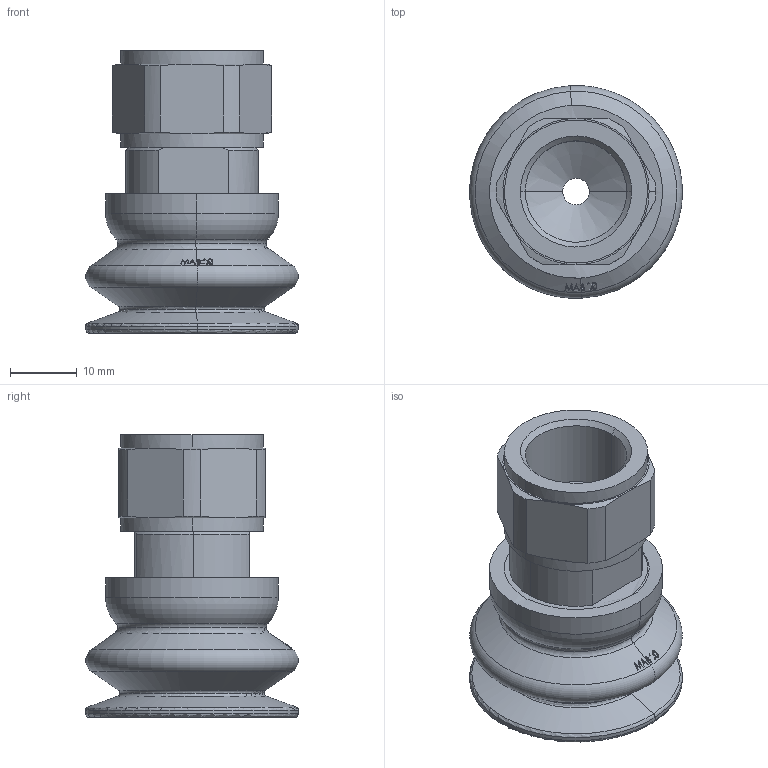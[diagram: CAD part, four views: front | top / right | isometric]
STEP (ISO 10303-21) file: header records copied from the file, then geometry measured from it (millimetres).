
FILE_DESCRIPTION (( 'STEP AP203' ), '1' );
FILE_NAME ('ZSAB30N-F03.STEP', '2022-03-31T14:24:23', ( '' ), ( '' ), 'SwSTEP 2.0', 'SolidWorks 2019', '' );
FILE_SCHEMA (( 'CONFIG_CONTROL_DESIGN' ));
Length unit declared in the file: millimetre
Products named in the file (1): ZSAB30N-F03
Bounding box: 32 x 31.98 x 42.5 mm (x, y, z)
Surface area: 6540.5 mm2 (no closed solid volume)
Topology: 0 solids, 3 shells, 126 faces, 281 edges, 172 vertices
Faces by surface type: bspline 32, torus 30, cone 25, cylinder 22, plane 17
Entity records: 6619 total; most frequent: CARTESIAN_POINT 4438, ORIENTED_EDGE 551, EDGE_CURVE 281, B_SPLINE_CURVE_WITH_KNOTS 281, DIRECTION 188, VERTEX_POINT 172, EDGE_LOOP 141, FACE_OUTER_BOUND 126
